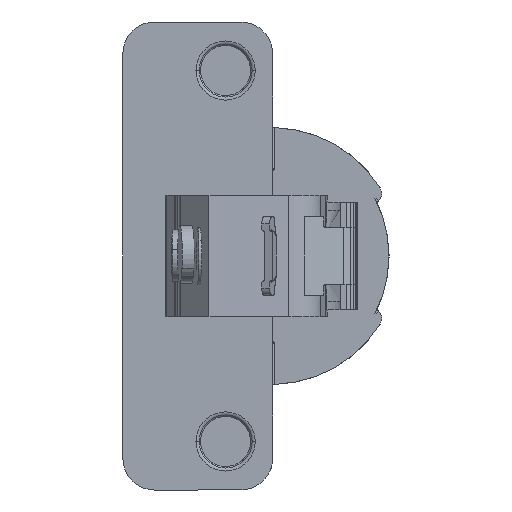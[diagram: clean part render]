
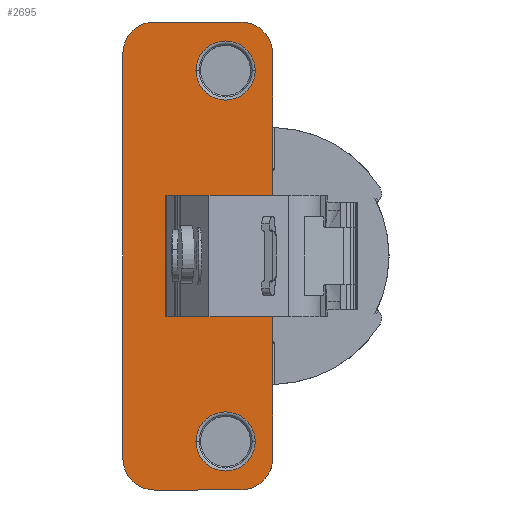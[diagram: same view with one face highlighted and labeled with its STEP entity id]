
A CAD part, left-side view. The second image highlights one B-rep face of the part: STEP entity #2695.
In plain terms, the highlighted planar face has unit normal (-1, 0.002, 0).
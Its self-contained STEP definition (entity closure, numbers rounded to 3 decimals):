
#8 = DIRECTION ( 'NONE',  ( 0.002, 1., 0. ) ) ;
#11 = CARTESIAN_POINT ( 'NONE',  ( -6.891, 18.702, 29.303 ) ) ;
#31 = EDGE_LOOP ( 'NONE', ( #832, #5135 ) ) ;
#96 = CARTESIAN_POINT ( 'NONE',  ( -6.883, 23.165, -31.833 ) ) ;
#100 = ORIENTED_EDGE ( 'NONE', *, *, #3624, .T. ) ;
#182 = LINE ( 'NONE', #888, #2541 ) ;
#197 = CARTESIAN_POINT ( 'NONE',  ( -6.879, 25.302, -25.033 ) ) ;
#331 = CARTESIAN_POINT ( 'NONE',  ( -6.879, 25.302, 26.967 ) ) ;
#393 = EDGE_CURVE ( 'NONE', #6130, #4550, #182, .T. ) ;
#405 = DIRECTION ( 'NONE',  ( -1., 0.002, 0. ) ) ;
#442 = CIRCLE ( 'NONE', #731, 4.149 ) ;
#446 = EDGE_CURVE ( 'NONE', #8646, #7118, #7443, .T. ) ;
#543 = EDGE_CURVE ( 'NONE', #7118, #5083, #6297, .T. ) ;
#731 = AXIS2_PLACEMENT_3D ( 'NONE', #331, #1088, #5652 ) ;
#738 = VECTOR ( 'NONE', #8, 1000. ) ;
#832 = ORIENTED_EDGE ( 'NONE', *, *, #5963, .F. ) ;
#888 = CARTESIAN_POINT ( 'NONE',  ( -6.883, 23.165, -31.833 ) ) ;
#996 = DIRECTION ( 'NONE',  ( -1., 0.002, 0. ) ) ;
#1061 = AXIS2_PLACEMENT_3D ( 'NONE', #5938, #5263, #7956 ) ;
#1088 = DIRECTION ( 'NONE',  ( 1., -0.002, 0. ) ) ;
#1159 = ORIENTED_EDGE ( 'NONE', *, *, #7416, .T. ) ;
#1267 = DIRECTION ( 'NONE',  ( 0., 0., 1. ) ) ;
#1417 = LINE ( 'NONE', #7292, #5099 ) ;
#1451 = CARTESIAN_POINT ( 'NONE',  ( -6.887, 21.153, 26.967 ) ) ;
#1574 = DIRECTION ( 'NONE',  ( -0.002, -1., 0. ) ) ;
#1637 = ORIENTED_EDGE ( 'NONE', *, *, #8180, .T. ) ;
#1743 = CARTESIAN_POINT ( 'NONE',  ( -6.891, 18.702, -7.533 ) ) ;
#1781 = DIRECTION ( 'NONE',  ( -0.002, -1., 0. ) ) ;
#1916 = EDGE_CURVE ( 'NONE', #2258, #1962, #6700, .T. ) ;
#1924 = AXIS2_PLACEMENT_3D ( 'NONE', #2564, #3832, #6549 ) ;
#1940 = CIRCLE ( 'NONE', #3045, 4.464 ) ;
#1946 = LINE ( 'NONE', #6659, #8502 ) ;
#1962 = VERTEX_POINT ( 'NONE', #6206 ) ;
#2002 = DIRECTION ( 'NONE',  ( 0.002, 1., 0. ) ) ;
#2156 = VERTEX_POINT ( 'NONE', #3229 ) ;
#2199 = CARTESIAN_POINT ( 'NONE',  ( -6.861, 35.238, 9.467 ) ) ;
#2226 = VERTEX_POINT ( 'NONE', #4624 ) ;
#2258 = VERTEX_POINT ( 'NONE', #8340 ) ;
#2316 = AXIS2_PLACEMENT_3D ( 'NONE', #6523, #3908, #7846 ) ;
#2424 = CARTESIAN_POINT ( 'NONE',  ( -6.891, 18.702, -27.37 ) ) ;
#2429 = VERTEX_POINT ( 'NONE', #5132 ) ;
#2535 = CARTESIAN_POINT ( 'NONE',  ( -6.883, 23.165, -27.37 ) ) ;
#2541 = VECTOR ( 'NONE', #7482, 1000. ) ;
#2564 = CARTESIAN_POINT ( 'NONE',  ( -6.883, 23.165, -27.37 ) ) ;
#2695 = ADVANCED_FACE ( 'NONE', ( #5179, #5801, #5720 ), #7247, .T. ) ;
#2828 = VERTEX_POINT ( 'NONE', #8131 ) ;
#2851 = CARTESIAN_POINT ( 'NONE',  ( -6.853, 39.702, -27.37 ) ) ;
#2891 = CARTESIAN_POINT ( 'NONE',  ( -6.879, 25.302, -25.033 ) ) ;
#2929 = DIRECTION ( 'NONE',  ( -1., 0.002, 0. ) ) ;
#3045 = AXIS2_PLACEMENT_3D ( 'NONE', #6125, #4918, #7600 ) ;
#3118 = VERTEX_POINT ( 'NONE', #2424 ) ;
#3144 = ORIENTED_EDGE ( 'NONE', *, *, #4323, .T. ) ;
#3145 = CARTESIAN_POINT ( 'NONE',  ( -6.861, 35.238, -31.833 ) ) ;
#3177 = DIRECTION ( 'NONE',  ( -1., 0.002, 0. ) ) ;
#3229 = CARTESIAN_POINT ( 'NONE',  ( -6.853, 39.702, 29.303 ) ) ;
#3375 = CARTESIAN_POINT ( 'NONE',  ( -6.861, 35.238, 33.767 ) ) ;
#3624 = EDGE_CURVE ( 'NONE', #3118, #7089, #7560, .T. ) ;
#3701 = VERTEX_POINT ( 'NONE', #6777 ) ;
#3727 = VECTOR ( 'NONE', #5420, 1000. ) ;
#3832 = DIRECTION ( 'NONE',  ( -1., 0.002, 0. ) ) ;
#3854 = AXIS2_PLACEMENT_3D ( 'NONE', #4528, #4394, #1781 ) ;
#3908 = DIRECTION ( 'NONE',  ( 1., -0.002, 0. ) ) ;
#3926 = CARTESIAN_POINT ( 'NONE',  ( -6.861, 35.238, 29.303 ) ) ;
#3953 = EDGE_LOOP ( 'NONE', ( #3144, #5075 ) ) ;
#4138 = AXIS2_PLACEMENT_3D ( 'NONE', #2535, #405, #7882 ) ;
#4287 = CARTESIAN_POINT ( 'NONE',  ( -6.864, 33.682, 29.303 ) ) ;
#4323 = EDGE_CURVE ( 'NONE', #7891, #7046, #4989, .T. ) ;
#4394 = DIRECTION ( 'NONE',  ( -1., 0.002, 0. ) ) ;
#4528 = CARTESIAN_POINT ( 'NONE',  ( -6.861, 35.238, -27.37 ) ) ;
#4550 = VERTEX_POINT ( 'NONE', #96 ) ;
#4599 = ORIENTED_EDGE ( 'NONE', *, *, #5630, .T. ) ;
#4624 = CARTESIAN_POINT ( 'NONE',  ( -6.887, 21.153, -25.033 ) ) ;
#4918 = DIRECTION ( 'NONE',  ( -1., 0.002, 0. ) ) ;
#4989 = CIRCLE ( 'NONE', #2316, 4.149 ) ;
#5075 = ORIENTED_EDGE ( 'NONE', *, *, #6688, .T. ) ;
#5083 = VERTEX_POINT ( 'NONE', #5292 ) ;
#5099 = VECTOR ( 'NONE', #2002, 1000. ) ;
#5109 = DIRECTION ( 'NONE',  ( 0., 0., -1. ) ) ;
#5121 = CIRCLE ( 'NONE', #1061, 4.464 ) ;
#5132 = CARTESIAN_POINT ( 'NONE',  ( -6.853, 39.702, -27.37 ) ) ;
#5135 = ORIENTED_EDGE ( 'NONE', *, *, #8015, .F. ) ;
#5177 = DIRECTION ( 'NONE',  ( -0.002, -1., -0.009 ) ) ;
#5179 = FACE_BOUND ( 'NONE', #31, .T. ) ;
#5237 = CARTESIAN_POINT ( 'NONE',  ( -6.864, 33.682, 9.467 ) ) ;
#5263 = DIRECTION ( 'NONE',  ( -1., 0.002, 0. ) ) ;
#5292 = CARTESIAN_POINT ( 'NONE',  ( -6.864, 33.682, -7.533 ) ) ;
#5327 = VECTOR ( 'NONE', #5561, 1000. ) ;
#5360 = EDGE_CURVE ( 'NONE', #1962, #2156, #5680, .T. ) ;
#5371 = EDGE_CURVE ( 'NONE', #3701, #3118, #5543, .T. ) ;
#5402 = AXIS2_PLACEMENT_3D ( 'NONE', #3926, #3177, #5177 ) ;
#5420 = DIRECTION ( 'NONE',  ( 0., 0., 1. ) ) ;
#5443 = ORIENTED_EDGE ( 'NONE', *, *, #6305, .T. ) ;
#5543 = CIRCLE ( 'NONE', #1924, 4.464 ) ;
#5554 = CARTESIAN_POINT ( 'NONE',  ( -6.891, 18.702, 29.303 ) ) ;
#5561 = DIRECTION ( 'NONE',  ( 0.002, 1., 0. ) ) ;
#5630 = EDGE_CURVE ( 'NONE', #2156, #2429, #6849, .T. ) ;
#5652 = DIRECTION ( 'NONE',  ( -0.002, -1., 0. ) ) ;
#5666 = CARTESIAN_POINT ( 'NONE',  ( -6.891, 18.702, 9.467 ) ) ;
#5678 = AXIS2_PLACEMENT_3D ( 'NONE', #197, #996, #1574 ) ;
#5680 = CIRCLE ( 'NONE', #5402, 4.464 ) ;
#5687 = ORIENTED_EDGE ( 'NONE', *, *, #446, .F. ) ;
#5720 = FACE_BOUND ( 'NONE', #3953, .T. ) ;
#5801 = FACE_OUTER_BOUND ( 'NONE', #8003, .T. ) ;
#5840 = VECTOR ( 'NONE', #6355, 1000. ) ;
#5938 = CARTESIAN_POINT ( 'NONE',  ( -6.883, 23.165, 29.303 ) ) ;
#5963 = EDGE_CURVE ( 'NONE', #2226, #2828, #7946, .T. ) ;
#6125 = CARTESIAN_POINT ( 'NONE',  ( -6.861, 35.238, -27.37 ) ) ;
#6130 = VERTEX_POINT ( 'NONE', #3145 ) ;
#6180 = VECTOR ( 'NONE', #5109, 1000. ) ;
#6206 = CARTESIAN_POINT ( 'NONE',  ( -6.861, 35.238, 33.767 ) ) ;
#6242 = CIRCLE ( 'NONE', #5678, 4.149 ) ;
#6297 = LINE ( 'NONE', #4287, #6180 ) ;
#6305 = EDGE_CURVE ( 'NONE', #2429, #6130, #1940, .T. ) ;
#6355 = DIRECTION ( 'NONE',  ( 0., 0., -1. ) ) ;
#6523 = CARTESIAN_POINT ( 'NONE',  ( -6.879, 25.302, 26.967 ) ) ;
#6549 = DIRECTION ( 'NONE',  ( -0.002, -1., -0.009 ) ) ;
#6659 = CARTESIAN_POINT ( 'NONE',  ( -6.891, 18.702, 29.303 ) ) ;
#6688 = EDGE_CURVE ( 'NONE', #7046, #7891, #442, .T. ) ;
#6700 = LINE ( 'NONE', #3375, #738 ) ;
#6777 = CARTESIAN_POINT ( 'NONE',  ( -6.891, 18.702, -27.411 ) ) ;
#6811 = ORIENTED_EDGE ( 'NONE', *, *, #7845, .T. ) ;
#6849 = LINE ( 'NONE', #2851, #5840 ) ;
#6915 = ORIENTED_EDGE ( 'NONE', *, *, #8403, .T. ) ;
#6919 = CIRCLE ( 'NONE', #4138, 4.464 ) ;
#6943 = AXIS2_PLACEMENT_3D ( 'NONE', #2891, #2929, #8242 ) ;
#6950 = ORIENTED_EDGE ( 'NONE', *, *, #5371, .T. ) ;
#6973 = ORIENTED_EDGE ( 'NONE', *, *, #1916, .T. ) ;
#7046 = VERTEX_POINT ( 'NONE', #7706 ) ;
#7089 = VERTEX_POINT ( 'NONE', #1743 ) ;
#7118 = VERTEX_POINT ( 'NONE', #5237 ) ;
#7182 = ORIENTED_EDGE ( 'NONE', *, *, #393, .T. ) ;
#7247 = PLANE ( 'NONE',  #3854 ) ;
#7292 = CARTESIAN_POINT ( 'NONE',  ( -6.861, 35.238, -7.533 ) ) ;
#7316 = VERTEX_POINT ( 'NONE', #11 ) ;
#7416 = EDGE_CURVE ( 'NONE', #7089, #5083, #1417, .T. ) ;
#7424 = ORIENTED_EDGE ( 'NONE', *, *, #5360, .T. ) ;
#7443 = LINE ( 'NONE', #2199, #5327 ) ;
#7482 = DIRECTION ( 'NONE',  ( -0.002, -1., 0. ) ) ;
#7560 = LINE ( 'NONE', #5554, #3727 ) ;
#7600 = DIRECTION ( 'NONE',  ( -0.002, -1., -0.009 ) ) ;
#7706 = CARTESIAN_POINT ( 'NONE',  ( -6.872, 29.45, 26.967 ) ) ;
#7845 = EDGE_CURVE ( 'NONE', #7316, #2258, #5121, .T. ) ;
#7846 = DIRECTION ( 'NONE',  ( -0.002, -1., 0. ) ) ;
#7882 = DIRECTION ( 'NONE',  ( -0.002, -1., -0.009 ) ) ;
#7891 = VERTEX_POINT ( 'NONE', #1451 ) ;
#7946 = CIRCLE ( 'NONE', #6943, 4.149 ) ;
#7956 = DIRECTION ( 'NONE',  ( -0.002, -1., -0.009 ) ) ;
#8003 = EDGE_LOOP ( 'NONE', ( #100, #1159, #8124, #5687, #1637, #6811, #6973, #7424, #4599, #5443, #7182, #6915, #6950 ) ) ;
#8015 = EDGE_CURVE ( 'NONE', #2828, #2226, #6242, .T. ) ;
#8124 = ORIENTED_EDGE ( 'NONE', *, *, #543, .F. ) ;
#8131 = CARTESIAN_POINT ( 'NONE',  ( -6.872, 29.45, -25.033 ) ) ;
#8180 = EDGE_CURVE ( 'NONE', #8646, #7316, #1946, .T. ) ;
#8242 = DIRECTION ( 'NONE',  ( -0.002, -1., 0. ) ) ;
#8340 = CARTESIAN_POINT ( 'NONE',  ( -6.883, 23.165, 33.767 ) ) ;
#8403 = EDGE_CURVE ( 'NONE', #4550, #3701, #6919, .T. ) ;
#8502 = VECTOR ( 'NONE', #1267, 1000. ) ;
#8646 = VERTEX_POINT ( 'NONE', #5666 ) ;
